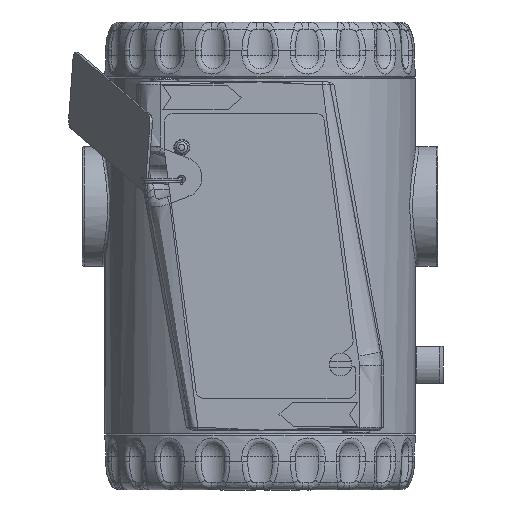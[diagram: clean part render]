
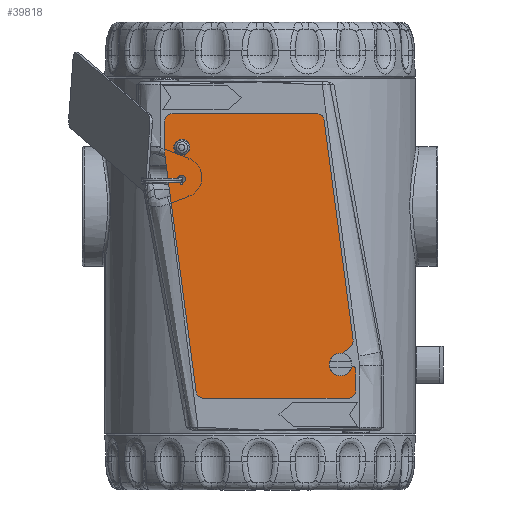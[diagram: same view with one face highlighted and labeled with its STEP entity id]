
A CAD part, left-side view. The second image highlights one B-rep face of the part: STEP entity #39818.
In plain terms, the highlighted planar face has unit normal (-1, 0, 0) as drawn and (0, 0, 1) by its records, which use the part's own axes.
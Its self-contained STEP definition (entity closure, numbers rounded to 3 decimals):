
#1167=PLANE('',#44258);
#1829=FACE_BOUND('',#10299,.T.);
#1830=FACE_BOUND('',#10300,.T.);
#3225=LINE('',#83011,#4959);
#3229=LINE('',#83023,#4963);
#3233=LINE('',#83035,#4967);
#3237=LINE('',#83047,#4971);
#3241=LINE('',#83059,#4975);
#3244=LINE('',#83065,#4978);
#3248=LINE('',#83077,#4982);
#3252=LINE('',#83088,#4986);
#4959=VECTOR('',#53313,10.);
#4963=VECTOR('',#53325,10.);
#4967=VECTOR('',#53337,10.);
#4971=VECTOR('',#53349,10.);
#4975=VECTOR('',#53361,10.);
#4978=VECTOR('',#53366,10.);
#4982=VECTOR('',#53378,10.);
#4986=VECTOR('',#53390,10.);
#7707=FACE_OUTER_BOUND('',#10298,.T.);
#10298=EDGE_LOOP('',(#32894,#32895,#32896,#32897,#32898,#32899,#32900,#32901,
#32902,#32903,#32904,#32905,#32906,#32907,#32908));
#10299=EDGE_LOOP('',(#32909));
#10300=EDGE_LOOP('',(#32910));
#12968=CIRCLE('',#44224,1.35);
#12970=CIRCLE('',#44227,1.);
#12971=CIRCLE('',#44229,2.);
#12973=CIRCLE('',#44233,2.);
#12975=CIRCLE('',#44237,1.);
#12977=CIRCLE('',#44241,2.);
#12979=CIRCLE('',#44245,2.);
#12981=CIRCLE('',#44250,2.);
#12983=CIRCLE('',#44254,2.);
#17752=VERTEX_POINT('',#82991);
#17754=VERTEX_POINT('',#82997);
#17755=VERTEX_POINT('',#83001);
#17756=VERTEX_POINT('',#83002);
#17759=VERTEX_POINT('',#83010);
#17761=VERTEX_POINT('',#83016);
#17763=VERTEX_POINT('',#83022);
#17765=VERTEX_POINT('',#83028);
#17767=VERTEX_POINT('',#83034);
#17769=VERTEX_POINT('',#83040);
#17771=VERTEX_POINT('',#83046);
#17773=VERTEX_POINT('',#83052);
#17775=VERTEX_POINT('',#83058);
#17777=VERTEX_POINT('',#83064);
#17779=VERTEX_POINT('',#83070);
#17781=VERTEX_POINT('',#83076);
#17783=VERTEX_POINT('',#83082);
#22940=EDGE_CURVE('',#17752,#17752,#12968,.T.);
#22943=EDGE_CURVE('',#17754,#17754,#12970,.T.);
#22944=EDGE_CURVE('',#17755,#17756,#12971,.T.);
#22948=EDGE_CURVE('',#17756,#17759,#3225,.T.);
#22951=EDGE_CURVE('',#17759,#17761,#12973,.T.);
#22954=EDGE_CURVE('',#17761,#17763,#3229,.T.);
#22957=EDGE_CURVE('',#17763,#17765,#12975,.T.);
#22960=EDGE_CURVE('',#17765,#17767,#3233,.T.);
#22963=EDGE_CURVE('',#17767,#17769,#12977,.T.);
#22966=EDGE_CURVE('',#17769,#17771,#3237,.T.);
#22969=EDGE_CURVE('',#17771,#17773,#12979,.T.);
#22972=EDGE_CURVE('',#17773,#17775,#3241,.T.);
#22975=EDGE_CURVE('',#17775,#17777,#3244,.T.);
#22978=EDGE_CURVE('',#17777,#17779,#12981,.T.);
#22981=EDGE_CURVE('',#17779,#17781,#3248,.T.);
#22984=EDGE_CURVE('',#17781,#17783,#12983,.T.);
#22987=EDGE_CURVE('',#17783,#17755,#3252,.T.);
#32894=ORIENTED_EDGE('',*,*,#22944,.F.);
#32895=ORIENTED_EDGE('',*,*,#22987,.F.);
#32896=ORIENTED_EDGE('',*,*,#22984,.F.);
#32897=ORIENTED_EDGE('',*,*,#22981,.F.);
#32898=ORIENTED_EDGE('',*,*,#22978,.F.);
#32899=ORIENTED_EDGE('',*,*,#22975,.F.);
#32900=ORIENTED_EDGE('',*,*,#22972,.F.);
#32901=ORIENTED_EDGE('',*,*,#22969,.F.);
#32902=ORIENTED_EDGE('',*,*,#22966,.F.);
#32903=ORIENTED_EDGE('',*,*,#22963,.F.);
#32904=ORIENTED_EDGE('',*,*,#22960,.F.);
#32905=ORIENTED_EDGE('',*,*,#22957,.F.);
#32906=ORIENTED_EDGE('',*,*,#22954,.F.);
#32907=ORIENTED_EDGE('',*,*,#22951,.F.);
#32908=ORIENTED_EDGE('',*,*,#22948,.F.);
#32909=ORIENTED_EDGE('',*,*,#22940,.T.);
#32910=ORIENTED_EDGE('',*,*,#22943,.T.);
#39818=ADVANCED_FACE('',(#7707,#1829,#1830),#1167,.T.);
#44224=AXIS2_PLACEMENT_3D('',#82993,#53294,#53295);
#44227=AXIS2_PLACEMENT_3D('',#82999,#53301,#53302);
#44229=AXIS2_PLACEMENT_3D('',#83003,#53305,#53306);
#44233=AXIS2_PLACEMENT_3D('',#83017,#53318,#53319);
#44237=AXIS2_PLACEMENT_3D('',#83029,#53330,#53331);
#44241=AXIS2_PLACEMENT_3D('',#83041,#53342,#53343);
#44245=AXIS2_PLACEMENT_3D('',#83053,#53354,#53355);
#44250=AXIS2_PLACEMENT_3D('',#83071,#53371,#53372);
#44254=AXIS2_PLACEMENT_3D('',#83083,#53383,#53384);
#44258=AXIS2_PLACEMENT_3D('',#83091,#53394,#53395);
#53294=DIRECTION('center_axis',(0.,0.,-1.));
#53295=DIRECTION('ref_axis',(-1.,0.,0.));
#53301=DIRECTION('center_axis',(0.,0.,-1.));
#53302=DIRECTION('ref_axis',(-1.,0.,0.));
#53305=DIRECTION('center_axis',(0.,0.,-1.));
#53306=DIRECTION('ref_axis',(0.766,0.643,0.));
#53313=DIRECTION('',(0.643,-0.766,0.));
#53318=DIRECTION('center_axis',(0.,0.,1.));
#53319=DIRECTION('ref_axis',(0.766,0.643,0.));
#53325=DIRECTION('',(-0.643,0.766,0.));
#53330=DIRECTION('center_axis',(0.,0.,-1.));
#53331=DIRECTION('ref_axis',(0.,1.,0.));
#53337=DIRECTION('',(1.,0.,0.));
#53342=DIRECTION('center_axis',(0.,0.,-1.));
#53343=DIRECTION('ref_axis',(1.,0.,0.));
#53349=DIRECTION('',(0.,-1.,0.));
#53354=DIRECTION('center_axis',(0.,0.,-1.));
#53355=DIRECTION('ref_axis',(0.131,-0.991,0.));
#53361=DIRECTION('',(-0.991,-0.131,0.));
#53366=DIRECTION('',(-1.,0.,0.));
#53371=DIRECTION('center_axis',(0.,0.,-1.));
#53372=DIRECTION('ref_axis',(-1.,0.,0.));
#53378=DIRECTION('',(0.,1.,0.));
#53383=DIRECTION('center_axis',(0.,0.,-1.));
#53384=DIRECTION('ref_axis',(-0.131,0.991,0.));
#53390=DIRECTION('',(0.991,0.131,0.));
#53394=DIRECTION('center_axis',(0.,0.,1.));
#53395=DIRECTION('ref_axis',(1.,0.,0.));
#82991=CARTESIAN_POINT('',(10.35,4.599,0.7));
#82993=CARTESIAN_POINT('Origin',(9.,4.599,0.7));
#82997=CARTESIAN_POINT('',(18.4,4.599,0.7));
#82999=CARTESIAN_POINT('Origin',(17.4,4.599,0.7));
#83001=CARTESIAN_POINT('',(60.389,50.327,0.7));
#83002=CARTESIAN_POINT('',(62.182,49.63,0.7));
#83003=CARTESIAN_POINT('Origin',(60.65,48.344,0.7));
#83010=CARTESIAN_POINT('',(65.468,45.714,0.7));
#83011=CARTESIAN_POINT('',(65.468,45.714,0.7));
#83016=CARTESIAN_POINT('',(68.532,48.286,0.7));
#83017=CARTESIAN_POINT('Origin',(67.,47.,0.7));
#83022=CARTESIAN_POINT('',(67.633,49.357,0.7));
#83023=CARTESIAN_POINT('',(67.633,49.357,0.7));
#83028=CARTESIAN_POINT('',(68.399,51.,0.7));
#83029=CARTESIAN_POINT('Origin',(68.399,50.,0.7));
#83034=CARTESIAN_POINT('',(74.,51.,0.7));
#83035=CARTESIAN_POINT('',(74.,51.,0.7));
#83040=CARTESIAN_POINT('',(76.,49.,0.7));
#83041=CARTESIAN_POINT('Origin',(74.,49.,0.7));
#83046=CARTESIAN_POINT('',(76.,10.377,0.7));
#83047=CARTESIAN_POINT('',(76.,10.377,0.7));
#83052=CARTESIAN_POINT('',(74.261,8.394,0.7));
#83053=CARTESIAN_POINT('Origin',(74.,10.377,0.7));
#83058=CARTESIAN_POINT('',(10.5,0.,0.7));
#83059=CARTESIAN_POINT('',(10.5,0.,0.7));
#83064=CARTESIAN_POINT('',(2.,0.,0.7));
#83065=CARTESIAN_POINT('',(2.,0.,0.7));
#83070=CARTESIAN_POINT('',(0.,2.,0.7));
#83071=CARTESIAN_POINT('Origin',(2.,2.,0.7));
#83076=CARTESIAN_POINT('',(0.,40.623,0.7));
#83077=CARTESIAN_POINT('',(0.,40.623,0.7));
#83082=CARTESIAN_POINT('',(1.739,42.606,0.7));
#83083=CARTESIAN_POINT('Origin',(2.,40.623,0.7));
#83088=CARTESIAN_POINT('',(60.389,50.327,0.7));
#83091=CARTESIAN_POINT('Origin',(39.077,26.228,0.7));
